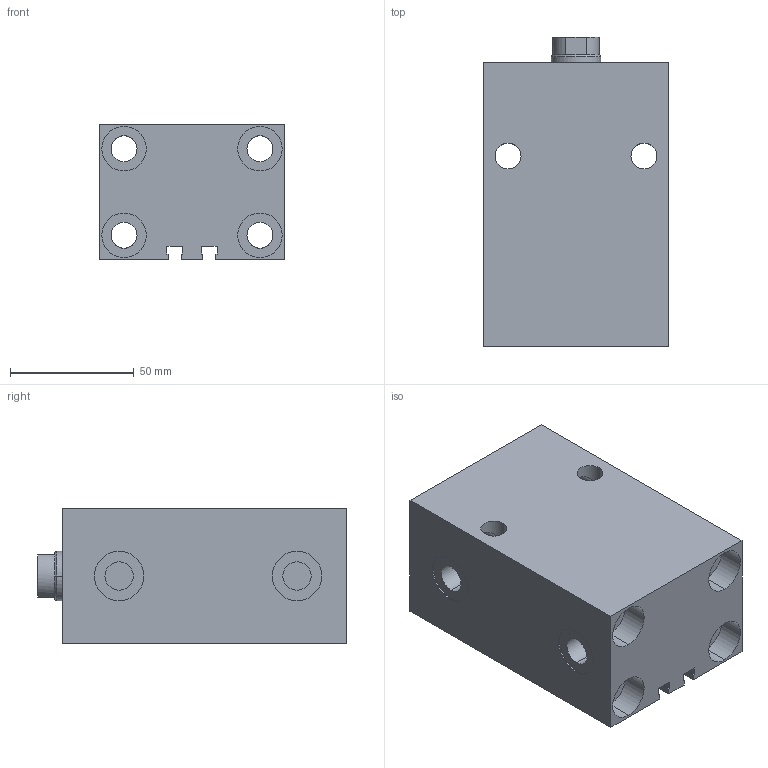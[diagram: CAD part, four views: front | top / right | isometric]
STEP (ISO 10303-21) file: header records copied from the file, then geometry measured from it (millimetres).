
FILE_DESCRIPTION (( 'STEP AP203' ), '1' );
FILE_NAME ('GERMA_Blockzylinder_700-032-050.STEP', '2016-07-22T09:02:46', ( '' ), ( '' ), 'SwSTEP 2.0', 'SolidWorks 2015', '' );
FILE_SCHEMA (( 'CONFIG_CONTROL_DESIGN' ));
Length unit declared in the file: millimetre
Products named in the file (3): GERMA_Blockzylinder_700-032-050; GH-700-032_GH-700-032-050; Kolben_MT 70x-032_Kolben_MT DU.32-Hub50-IG
Assembly tree (2 placements, depth 2):
  GERMA_Blockzylinder_700-032-050
    GH-700-032_GH-700-032-050
    Kolben_MT 70x-032_Kolben_MT DU.32-Hub50-IG
Bounding box: 75 x 125 x 55 mm (x, y, z)
Volume: 379389.7 mm3; surface area: 79873.4 mm2
Topology: 2 solids, 2 shells, 136 faces, 322 edges, 198 vertices
Faces by surface type: cylinder 75, plane 47, cone 14
Entity records: 4210 total; most frequent: CARTESIAN_POINT 751, DIRECTION 695, ORIENTED_EDGE 632, EDGE_CURVE 316, AXIS2_PLACEMENT_3D 270, VERTEX_POINT 198, EDGE_LOOP 170, LINE 155
